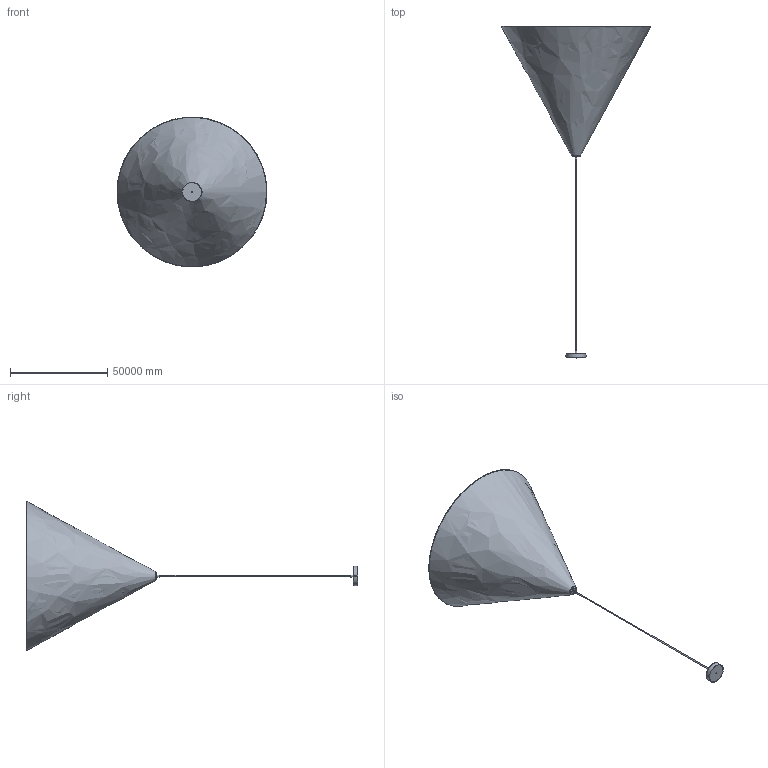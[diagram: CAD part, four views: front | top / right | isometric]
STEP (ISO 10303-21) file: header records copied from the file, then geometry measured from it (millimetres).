
FILE_DESCRIPTION ((), '1');
FILE_NAME ('G:\_Liczy się słowo\_Modelowanie SIGMA\VESUVIO\paczka\VESUVIO.stp', '2024-10-07T09:37:15', ('Unknown'), ('Unknown'), 'HarmonyWare STEP v2.1.4', 'HarmonyWare Translators', '');
FILE_SCHEMA (('CONFIG_CONTROL_DESIGN'));
Length unit declared in the file: metre
Products named in the file (21): ISO7380; przewód; podsufitka 100; klosz; żarówka
Assembly tree (20 placements, depth 2):
  (unnamed)
    ISO7380
    ISO7380
    przewód
    podsufitka 100
    klosz
    żarówka
    żarówka
    żarówka
    żarówka
    żarówka
    żarówka
    żarówka
    żarówka
    żarówka
    żarówka
    żarówka
    żarówka
    żarówka
    żarówka
    klosz
Bounding box: 76994.68 x 170400 x 76867.24 mm (x, y, z)
Volume: 3085924905185.9 mm3; surface area: 20352821115.8 mm2
Topology: 20 solids, 20 shells, 169 faces, 356 edges, 229 vertices
Faces by surface type: bspline 169
Entity records: 14613 total; most frequent: CARTESIAN_POINT 9519, ORIENTED_EDGE 696, EDGE_CURVE 348, B_SPLINE_CURVE_WITH_KNOTS 252, VERTEX_POINT 228, PERSON 208, ORGANIZATION 208, PERSON_AND_ORGANIZATION 208
